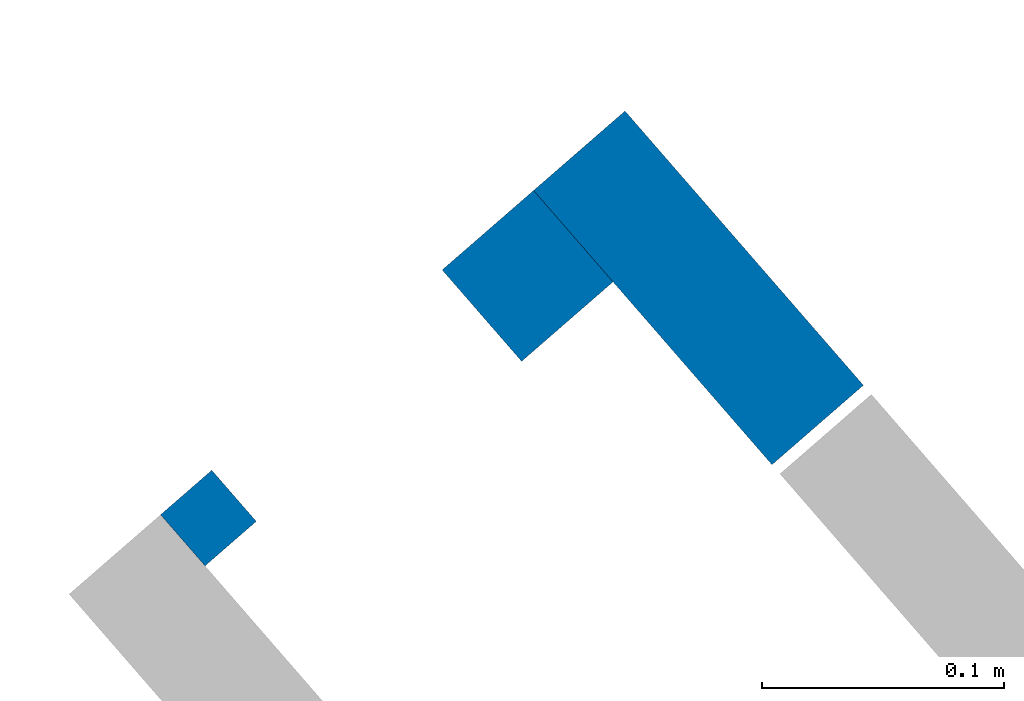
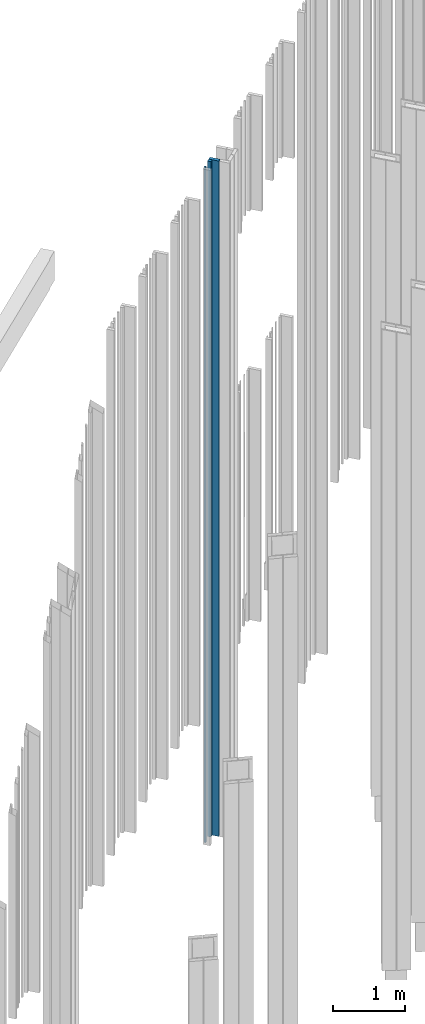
# One storey, part 254 of 390: 3 walls.
"""IFC2X3 building model written with IfcOpenShell, lengths in millimetres."""

from ifc_helpers import new_model, entity, si_unit, converted_unit, derived_unit, money_unit, direction, frame, origin_with_axes, place, context, subcontext, project, spatial, faceted_brep, material, type_object, element, save


model = new_model("IFC2X3")

# Units and contexts
model_context = context("Model", 3, precision=1e-05, world=origin_with_axes(), true_north=direction((0.0, 1.0)))
body_context = subcontext(model_context, "Body", "Model", "MODEL_VIEW")
ifc_project = project(units=[si_unit("LENGTHUNIT", "METRE", prefix="MILLI"), si_unit("AREAUNIT", "SQUARE_METRE"), si_unit("VOLUMEUNIT", "CUBIC_METRE"), converted_unit("PLANEANGLEUNIT", "DEGREE", entity("IfcPlaneAngleMeasure", 0.0174532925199), si_unit("PLANEANGLEUNIT", "RADIAN"), dimensions=[0, 0, 0, 0, 0, 0, 0]), si_unit("SOLIDANGLEUNIT", "STERADIAN"), money_unit("EUR"), converted_unit("TIMEUNIT", "Year", entity("IfcTimeMeasure", 31556926.0), si_unit("TIMEUNIT", "SECOND"), dimensions=[0, 0, 1, 0, 0, 0, 0]), si_unit("MASSUNIT", "GRAM", prefix="KILO"), si_unit("THERMODYNAMICTEMPERATUREUNIT", "DEGREE_CELSIUS"), si_unit("LUMINOUSINTENSITYUNIT", "LUMEN"), si_unit("ENERGYUNIT", "JOULE", prefix="MEGA"), derived_unit("THERMALCONDUCTANCEUNIT", [(si_unit("POWERUNIT", "WATT"), 1), (si_unit("LENGTHUNIT", "METRE"), -1), (si_unit("THERMODYNAMICTEMPERATUREUNIT", "KELVIN"), -1)]), derived_unit("SPECIFICHEATCAPACITYUNIT", [(si_unit("ENERGYUNIT", "JOULE"), 1), (si_unit("MASSUNIT", "GRAM", prefix="KILO"), -1), (si_unit("THERMODYNAMICTEMPERATUREUNIT", "KELVIN"), -1)]), derived_unit("MASSDENSITYUNIT", [(si_unit("MASSUNIT", "GRAM", prefix="KILO"), 1), (si_unit("VOLUMEUNIT", "CUBIC_METRE"), -1)])], contexts=[model_context])

# Site, building, storey
site_placement = place(None, origin_with_axes())
site = spatial("IfcSite", under=ifc_project, at=site_placement, Name="Site", CompositionType="ELEMENT")
building_placement = place(site_placement, origin_with_axes())
building = spatial("IfcBuilding", under=site, at=building_placement, Name="Building", CompositionType="ELEMENT")
storey_placement = place(building_placement, origin_with_axes())
storey = spatial("IfcBuildingStorey", under=building, at=storey_placement, Name="1 korrus", CompositionType="ELEMENT", Elevation=0.0)

# Walls
ifc_material = material(Name="Site specified")
wall_type_1 = type_object("IfcWallType", Name="Puitfassaadi ribistik", PredefinedType="NOTDEFINED")
wall_1_placement = place(storey_placement, frame((162869.541265, 86225.5240139, -1615.0), z_axis=(0.0, 0.0, 1.0), x_axis=(-0.754709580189, -0.65605902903, 0.0)))
element("IfcWall", 1, at=wall_1_placement, inside=storey, type_object=wall_type_1, material=ifc_material, Name="Site specified", context=body_context, shape_type="Brep", body=[
    faceted_brep([(-14.0, -14.0, 11480.0), (-14.0, -14.0, 0.0), (14.0, -14.0, 0.0), (14.0, -14.0, 11480.0), (-14.0, 14.0, 11480.0), (-14.0, 14.0, 0.0), (14.0, 14.0, 0.0), (14.0, 14.0, 11480.0)], [[[0, 1, 2, 3]], [[4, 5, 1, 0]], [[2, 1, 5, 6]], [[3, 2, 6, 7]], [[4, 0, 3, 7]], [[7, 6, 5, 4]]]),
])
wall_2_placement = place(storey_placement, frame((163001.285664, 86325.4725299, -1615.0), z_axis=(0.0, 0.0, 1.0), x_axis=(-0.754709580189, -0.65605902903, 0.0)))
element("IfcWall", 2, at=wall_2_placement, inside=storey, type_object=wall_type_1, material=ifc_material, Name="Site specified", context=body_context, shape_type="Brep", body=[
    faceted_brep([(-25.0, -25.0, 11480.0), (-25.0, -25.0, 0.0), (25.0, -25.0, 0.0), (25.0, -25.0, 11480.0), (-25.0, 25.0, 11480.0), (-25.0, 25.0, 0.0), (25.0, 25.0, 0.0), (25.0, 25.0, 11480.0)], [[[0, 1, 2, 3]], [[4, 5, 1, 0]], [[2, 1, 5, 6]], [[3, 2, 6, 7]], [[4, 0, 3, 7]], [[7, 6, 5, 4]]]),
])
wall_type_2 = type_object("IfcWallType", Name="Puitfassaadi ribisik", PredefinedType="NOTDEFINED")
wall_3_placement = place(storey_placement, frame((163071.824095, 86320.5400023, -1615.0), z_axis=(0.0, 0.0, 1.0), x_axis=(-0.754709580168, -0.656059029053, 0.0)))
element("IfcWall", 3, at=wall_3_placement, inside=storey, type_object=wall_type_2, material=ifc_material, Name="Site specified", context=body_context, shape_type="Brep", body=[
    faceted_brep([(-25.0, -75.0, 11479.9999949), (-25.0, -75.0, 0.0), (25.0, -75.0, 0.0), (25.0, -75.0, 11479.9999949), (-25.0, 75.0, 11479.9999949), (-25.0, 75.0, 0.0), (25.0, 75.0, 0.0), (25.0, 75.0, 11479.9999949)], [[[0, 1, 2, 3]], [[4, 5, 1, 0]], [[2, 1, 5, 6]], [[3, 2, 6, 7]], [[4, 0, 3, 7]], [[7, 6, 5, 4]]]),
])

save(model, "model.ifc")
